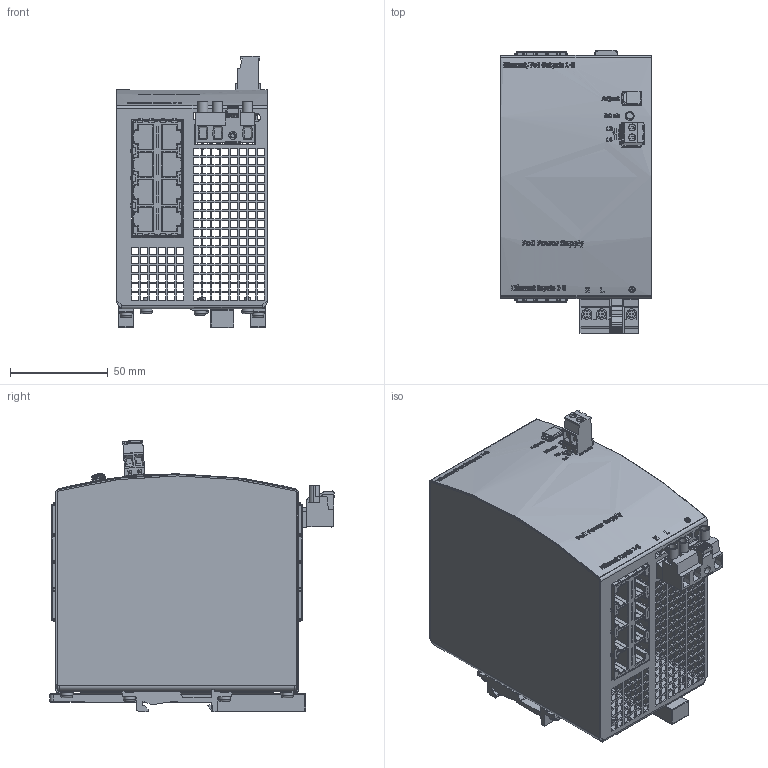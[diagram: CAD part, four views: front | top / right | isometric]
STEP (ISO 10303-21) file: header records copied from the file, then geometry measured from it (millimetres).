
FILE_DESCRIPTION(/* description */ (''),/* implementation_level */ '2;1');
FILE_NAME(/* name */ 'L:\MKT-GER\Neue Webdokumente\Daten von KO\Internet\POE.8AT-AC1 (AN-445.00)\md3_poe_8at-ac1.stp',/* time_stamp */ '2018-08-13T11:50:11+02:00',/* author */ ('rahns'),/* organization */ (''),/* preprocessor_version */ 'ST-DEVELOPER v17',/* originating_system */ 'Autodesk Inventor 2018',/* authorisation */ '');
FILE_SCHEMA (('AUTOMOTIVE_DESIGN { 1 0 10303 214 3 1 1 }'));
Products named in the file (15): 445.00; HOUSING BODY 445.00-2; HOUSING BODY 445.00-1; HOUSING COVER 445.00; FRONTFOIL 445.00; MKT_1X3C-47; MKT_1X2S_180-H8; MKT_1X2A-H9; MKT_1X3A-47; MKT_POE-TERMINAL; MKT_SLIDER; MKT_T HOLDER1; MKT_SCREW 3x6; MKT_POTI COVER; MKT_LED GN
Assembly tree (25 placements, depth 2):
  445.00
    HOUSING BODY 445.00-2
    HOUSING BODY 445.00-1
    HOUSING COVER 445.00
    FRONTFOIL 445.00
    MKT_1X3C-47
    MKT_1X2S_180-H8
    MKT_1X2A-H9
    MKT_1X3A-47
    MKT_POE-TERMINAL  x2
    MKT_SLIDER
    MKT_SCREW 3x6  x10
    MKT_T HOLDER1  x2
    MKT_POTI COVER
    MKT_LED GN
Bounding box: 76.85 x 145.1 x 138.79 mm (x, y, z)
Volume: 171932.7 mm3; surface area: 232747.6 mm2
Topology: 36 solids, 50 shells, 6885 faces, 19481 edges, 12830 vertices
Faces by surface type: plane 5709, cylinder 596, bspline 484, cone 48, torus 36, sphere 12
Full cylindrical faces by diameter (mm): 0.2 x7, 1.55 x2, 2.013 x1, 2.4 x1, 2.45 x3, 2.6 x1, 2.7 x1, 3 x14, 3.1 x4, 3.2 x3, 3.5 x1, 3.6 x2, 3.7 x3, 3.8 x3, 4 x1, 4.355 x1, 4.5 x1, 4.6 x1, 6 x10
Entity records: 188149 total; most frequent: CARTESIAN_POINT 51060, ORIENTED_EDGE 29776, DIRECTION 24955, EDGE_CURVE 14888, LINE 12303, VECTOR 12303, VERTEX_POINT 9830, AXIS2_PLACEMENT_3D 6326
